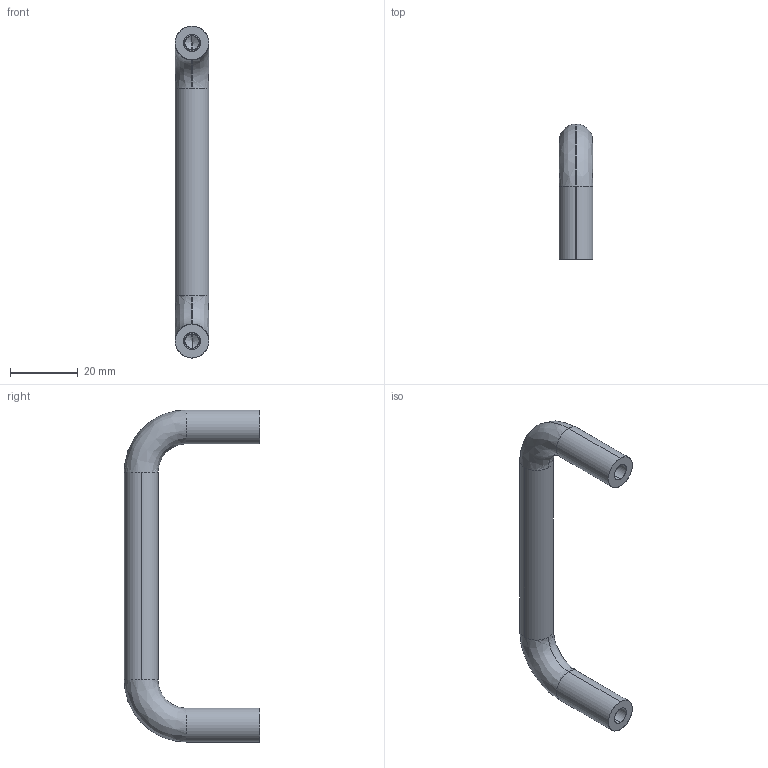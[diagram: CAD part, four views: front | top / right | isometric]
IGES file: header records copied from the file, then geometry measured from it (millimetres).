
Start section: SolidWorks IGES file using analytic representation for surfaces
Global section: file name: C:\Users\IanO\Desktop\Temp File\Process pending\79840_v2\79840_v2_20171115_IGES\79840.W0008.igs; native system: SolidWorks 2017; preprocessor: SolidWorks 2017; author: IanO; date: 171115.103651; units: millimetre
Bounding box: 10 x 40 x 98 mm (x, y, z)
Surface area: 5114.7 mm2 (no closed solid volume)
Topology: 0 solids, 0 shells, 26 faces, 352 edges, 348 vertices
Faces by surface type: revolution 18, bspline 8
